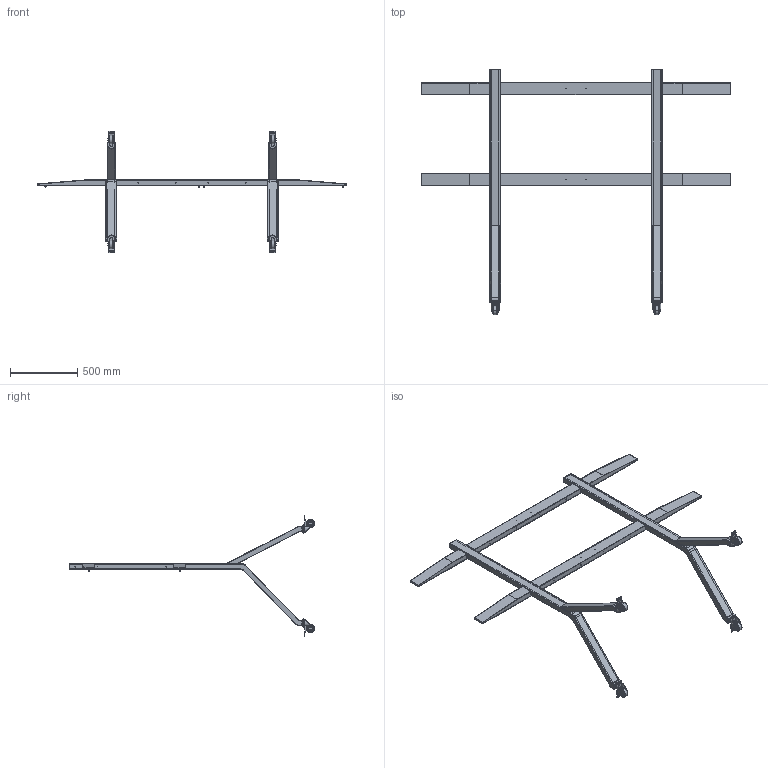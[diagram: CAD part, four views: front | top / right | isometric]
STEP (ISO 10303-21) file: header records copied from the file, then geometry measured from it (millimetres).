
FILE_DESCRIPTION (( 'STEP AP203' ), '1' );
FILE_NAME ('URL109-T Stand 3D.STEP', '2024-02-27T16:22:23', ( '' ), ( '' ), 'SwSTEP 2.0', 'SolidWorks 2023', '' );
FILE_SCHEMA (( 'CONFIG_CONTROL_DESIGN' ));
Length unit declared in the file: millimetre
Products named in the file (11): 25-INCH_Caster_URL136; 48023037400R00-01_ASM_3_URL109; URL109-T Stand 3D; M812_GB700_URL136; GBT97_1-2002_80001_URL109; M4X10_GB819_URL136; 48023037400R00-02_3_URL109; 48023037400R00-03_3_URL109; 48023037400R00-01-01_3_URL109; 48029035750R00-05_URL136; 48023037400R00-04_3_URL109
Assembly tree (51 placements, depth 3):
  URL109-T Stand 3D
    48023037400R00-01_ASM_3_URL109  x2
      48023037400R00-01-01_3_URL109
      25-INCH_Caster_URL136
    48023037400R00-02_3_URL109  x2
    48023037400R00-03_3_URL109  x2
    48023037400R00-04_3_URL109  x2
    48029035750R00-05_URL136  x8
    GBT97_1-2002_80001_URL109  x8
    M812_GB700_URL136  x8
    M4X10_GB819_URL136  x16
Bounding box: 2303 x 1824.5 x 901.16 mm (x, y, z)
Volume: 11582068.2 mm3; surface area: 4077713.6 mm2
Topology: 56 solids, 56 shells, 3172 faces, 7942 edges, 5038 vertices
Faces by surface type: cylinder 1130, plane 1076, bspline 480, cone 248, torus 212, sphere 26
Entity records: 59050 total; most frequent: CARTESIAN_POINT 36071, ORIENTED_EDGE 5190, EDGE_CURVE 2595, DIRECTION 2581, B_SPLINE_CURVE_WITH_KNOTS 1962, VERTEX_POINT 1654, EDGE_LOOP 1283, AXIS2_PLACEMENT_3D 1084
